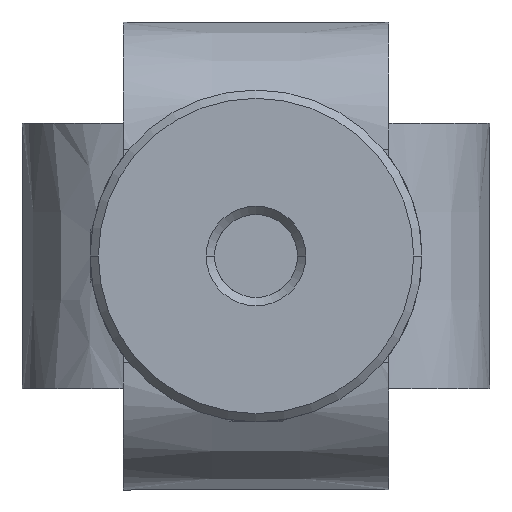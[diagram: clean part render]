
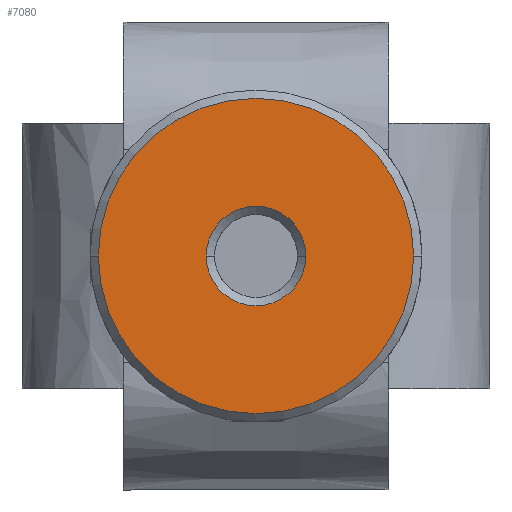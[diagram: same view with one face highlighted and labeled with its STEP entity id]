
A CAD part, front view. The second image highlights one B-rep face of the part: STEP entity #7080.
In plain terms, the highlighted planar face has unit normal (0, -1, 0).
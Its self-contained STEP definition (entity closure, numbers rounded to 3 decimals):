
#595 = CIRCLE ( 'NONE', #4014, 3. ) ;
#728 = DIRECTION ( 'NONE',  ( 0., 1., 0. ) ) ;
#969 = VERTEX_POINT ( 'NONE', #2282 ) ;
#1063 = FACE_OUTER_BOUND ( 'NONE', #1381, .T. ) ;
#1297 = EDGE_CURVE ( 'NONE', #7661, #5794, #7664, .T. ) ;
#1381 = EDGE_LOOP ( 'NONE', ( #6760, #2593 ) ) ;
#1458 = DIRECTION ( 'NONE',  ( 0., -1., 0. ) ) ;
#1686 = DIRECTION ( 'NONE',  ( -1., 0., 0. ) ) ;
#2025 = DIRECTION ( 'NONE',  ( 0., 1., 0. ) ) ;
#2047 = DIRECTION ( 'NONE',  ( 0., -1., 0. ) ) ;
#2268 = ORIENTED_EDGE ( 'NONE', *, *, #6891, .T. ) ;
#2282 = CARTESIAN_POINT ( 'NONE',  ( 3., -35.24, 0. ) ) ;
#2463 = EDGE_CURVE ( 'NONE', #4496, #969, #4114, .T. ) ;
#2549 = DIRECTION ( 'NONE',  ( -1., 0., 0. ) ) ;
#2593 = ORIENTED_EDGE ( 'NONE', *, *, #5961, .T. ) ;
#2669 = CARTESIAN_POINT ( 'NONE',  ( 0., -35.24, 0. ) ) ;
#2698 = AXIS2_PLACEMENT_3D ( 'NONE', #5260, #7721, #1686 ) ;
#2762 = AXIS2_PLACEMENT_3D ( 'NONE', #7366, #1458, #4539 ) ;
#3430 = CARTESIAN_POINT ( 'NONE',  ( -9.5, -35.24, 0. ) ) ;
#3567 = ORIENTED_EDGE ( 'NONE', *, *, #2463, .T. ) ;
#3573 = AXIS2_PLACEMENT_3D ( 'NONE', #2669, #2047, #7439 ) ;
#3918 = EDGE_LOOP ( 'NONE', ( #3567, #2268 ) ) ;
#4014 = AXIS2_PLACEMENT_3D ( 'NONE', #4307, #728, #4913 ) ;
#4114 = CIRCLE ( 'NONE', #7489, 3. ) ;
#4236 = CARTESIAN_POINT ( 'NONE',  ( -3., -35.24, 0. ) ) ;
#4307 = CARTESIAN_POINT ( 'NONE',  ( 0., -35.24, 0. ) ) ;
#4496 = VERTEX_POINT ( 'NONE', #4236 ) ;
#4539 = DIRECTION ( 'NONE',  ( -1., 0., 0. ) ) ;
#4913 = DIRECTION ( 'NONE',  ( -1., 0., 0. ) ) ;
#5260 = CARTESIAN_POINT ( 'NONE',  ( 0., -35.24, 0. ) ) ;
#5368 = CIRCLE ( 'NONE', #3573, 9.5 ) ;
#5794 = VERTEX_POINT ( 'NONE', #3430 ) ;
#5894 = PLANE ( 'NONE',  #2698 ) ;
#5961 = EDGE_CURVE ( 'NONE', #5794, #7661, #5368, .T. ) ;
#6094 = CARTESIAN_POINT ( 'NONE',  ( 9.5, -35.24, 0. ) ) ;
#6760 = ORIENTED_EDGE ( 'NONE', *, *, #1297, .T. ) ;
#6838 = CARTESIAN_POINT ( 'NONE',  ( 0., -35.24, 0. ) ) ;
#6891 = EDGE_CURVE ( 'NONE', #969, #4496, #595, .T. ) ;
#7041 = FACE_BOUND ( 'NONE', #3918, .T. ) ;
#7080 = ADVANCED_FACE ( 'NONE', ( #7041, #1063 ), #5894, .T. ) ;
#7366 = CARTESIAN_POINT ( 'NONE',  ( 0., -35.24, 0. ) ) ;
#7439 = DIRECTION ( 'NONE',  ( -1., 0., 0. ) ) ;
#7489 = AXIS2_PLACEMENT_3D ( 'NONE', #6838, #2025, #2549 ) ;
#7661 = VERTEX_POINT ( 'NONE', #6094 ) ;
#7664 = CIRCLE ( 'NONE', #2762, 9.5 ) ;
#7721 = DIRECTION ( 'NONE',  ( 0., -1., 0. ) ) ;
